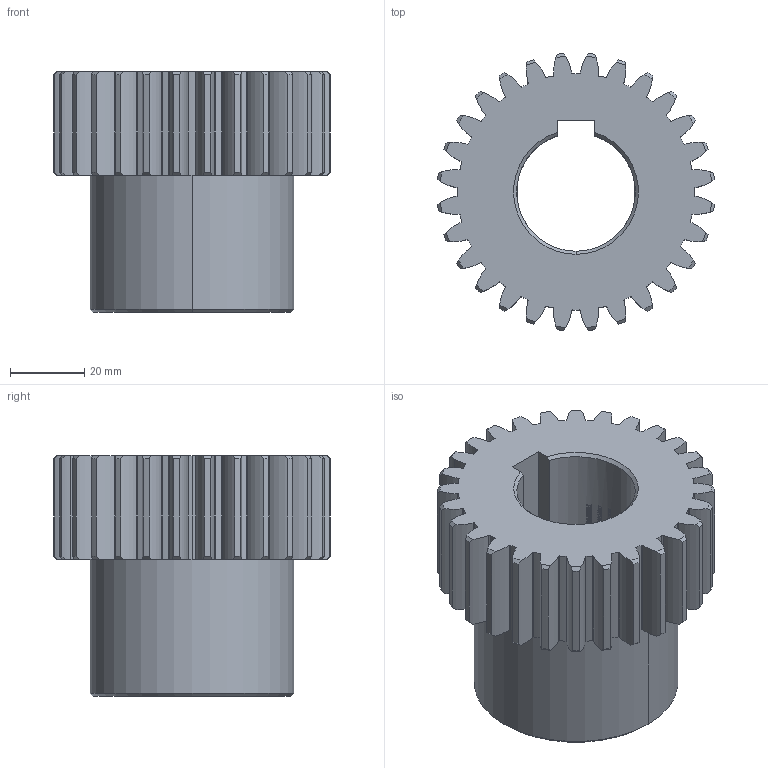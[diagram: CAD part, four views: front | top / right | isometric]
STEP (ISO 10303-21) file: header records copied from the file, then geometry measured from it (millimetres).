
FILE_DESCRIPTION (( 'STEP AP214' ), '1' );
FILE_NAME ('2.5M-28-32.step', '2022-03-16T14:00:30', ( 'IT Division' ), ( 'IT' ), 'SwSTEP 2.0', 'SolidWorks 2016', '' );
FILE_SCHEMA (( 'AUTOMOTIVE_DESIGN' ));
Length unit declared in the file: millimetre
Products named in the file (1): 2.5M-28-32
Bounding box: 74.7 x 74.7 x 65 mm (x, y, z)
Volume: 139528.1 mm3; surface area: 31468.1 mm2
Topology: 1 solids, 1 shells, 427 faces, 2572 edges, 2314 vertices
Faces by surface type: cylinder 360, cone 61, plane 6
Entity records: 32593 total; most frequent: CARTESIAN_POINT 14131, ORIENTED_EDGE 5144, DIRECTION 2692, EDGE_CURVE 2572, VERTEX_POINT 2314, AXIS2_PLACEMENT_3D 1078, B_SPLINE_CURVE_WITH_KNOTS 856, CIRCLE 650
